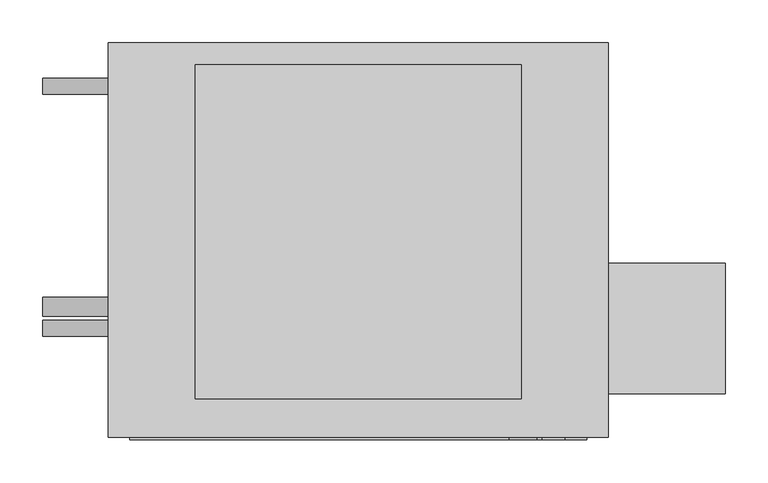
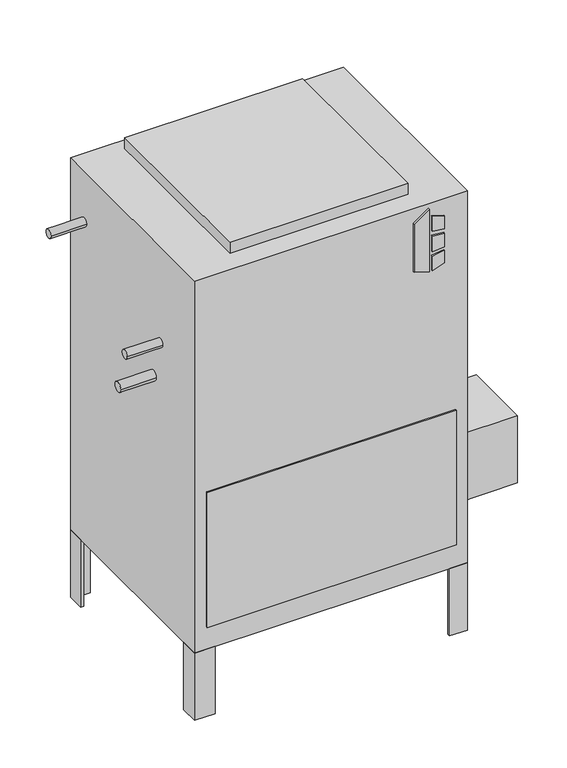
"""IFC4 building model written with IfcOpenShell, lengths in millimetres: proxy geometry, Concealed_High_Capacity_Vertical_Fan_Coil_Unit_-_VEY_-_IEC_-_2-Pipe_Cool-EHeat_LH_2022 : Size 06 - 277v/60Hz/1Ph - 6 Row 4.0kW."""

from ifc_helpers import new_model, si_unit, point, frame, frame_2d, origin, origin_with_axes, place, context, project, spatial, polyline, circle_curve, trimmed, segment, composite_curve, outline, extrude, source, transform, mapped, element, save


def mechanical_equipment_a16d7c03(model_context):
    return source(origin(), model_context, "Body", "SweptSolid", [
        extrude(outline(polyline([(698.9230703, 328.6868862), (688.975, 360.8602728), (831.1459244, 360.8602728), (808.1239183, 328.6868862), (698.9230703, 328.6868862)])), frame((0.0, -471.4875, 0.0), z_axis=(0.0, 1.0, 0.0), x_axis=(0.0, 0.0, 1.0)), (0.0, 0.0, 1.0), 3.175),
        extrude(outline(polyline([(777.9223557, 367.6186058), (774.7199632, 393.7), (803.9488042, 393.7), (812.0132193, 367.6186058), (777.9223557, 367.6186058)])), frame((0.0, -471.4875, 0.0), z_axis=(0.0, 1.0, 0.0), x_axis=(0.0, 0.0, 1.0)), (0.0, 0.0, 1.0), 3.175),
        extrude(outline(polyline([(726.0588288, 393.7), (722.3933279, 367.6186058), (688.975, 367.6186058), (697.6092372, 393.7), (726.0588288, 393.7)])), frame((0.0, -471.4875, 0.0), z_axis=(0.0, 1.0, 0.0), x_axis=(0.0, 0.0, 1.0)), (0.0, 0.0, 1.0), 3.175),
        extrude(outline(polyline([(765.3739903, 393.7), (767.6558166, 367.6186058), (731.7182681, 367.6186058), (734.4595331, 393.7), (765.3739903, 393.7)])), frame((0.0, -471.4875, 0.0), z_axis=(0.0, 1.0, 0.0), x_axis=(0.0, 0.0, 1.0)), (0.0, 0.0, 1.0), 3.175),
        extrude(outline(polyline([(444.5, -417.5125), (444.5, -265.1125), (581.025, -265.1125), (581.025, -417.5125), (444.5, -417.5125)])), frame((0.0, 0.0, 101.6), z_axis=(0.0, 0.0, 1.0), x_axis=(1.0, 0.0, 0.0)), (0.0, 0.0, 1.0), 152.4),
        extrude(outline(polyline([(444.5, -46.0375), (438.15, -46.0375), (438.15, -14.2875), (406.4, -14.2875), (406.4, -7.9375), (444.5, -7.9375), (444.5, -46.0375)])), frame((0.0, 0.0, -152.4), z_axis=(0.0, 0.0, 1.0), x_axis=(1.0, 0.0, 0.0)), (0.0, 0.0, 1.0), 152.4),
        extrude(outline(polyline([(-101.6, -7.9375), (-101.6, -14.2875), (-133.35, -14.2875), (-133.35, -46.0375), (-139.7, -46.0375), (-139.7, -7.9375), (-101.6, -7.9375)])), frame((0.0, 0.0, -152.4), z_axis=(0.0, 0.0, 1.0), x_axis=(1.0, 0.0, 0.0)), (0.0, 0.0, 1.0), 152.4),
        extrude(outline(polyline([(406.4, -468.3125), (406.4, -461.9625), (438.15, -461.9625), (438.15, -430.2125), (444.5, -430.2125), (444.5, -468.3125), (406.4, -468.3125)])), frame((0.0, 0.0, -152.4), z_axis=(0.0, 0.0, 1.0), x_axis=(1.0, 0.0, 0.0)), (0.0, 0.0, 1.0), 152.4),
        extrude(outline(polyline([(-139.7, -428.1199163), (-133.35, -428.1199163), (-133.35, -461.9625), (-96.2318533, -461.9625), (-96.2318533, -468.3125), (-139.7, -468.3125), (-139.7, -428.1199163)])), frame((0.0, 0.0, -152.4), z_axis=(0.0, 0.0, 1.0), x_axis=(1.0, 0.0, 0.0)), (0.0, 0.0, 1.0), 152.4),
        extrude(outline(polyline([(342.9, -33.3375), (342.9, -423.8625), (-38.1, -423.8625), (-38.1, -33.3375), (342.9, -33.3375)])), frame((0.0, 0.0, 841.375), z_axis=(0.0, 0.0, 1.0), x_axis=(1.0, 0.0, 0.0)), (0.0, 0.0, 1.0), 25.4),
        extrude(outline(polyline([(419.1, -471.4875), (-114.3, -471.4875), (-114.3, -468.3125), (419.1, -468.3125), (419.1, -471.4875)])), frame((0.0, 0.0, 50.8), z_axis=(0.0, 0.0, 1.0), x_axis=(1.0, 0.0, 0.0)), (0.0, 0.0, 1.0), 304.8),
        extrude(outline(composite_curve([segment(trimmed(circle_curve(frame_2d((-58.7375, 727.075)), 9.525), [point((-68.2625, 727.075))], [point((-49.2125, 727.075))], False, "CARTESIAN"), True, "CONTINUOUS"), segment(trimmed(circle_curve(frame_2d((-58.7375, 727.075)), 9.525), [point((-49.2125, 727.075))], [point((-68.2625, 727.075))], False, "CARTESIAN"), True, "CONTINUOUS")], self_intersect=False)), frame((-215.9, 0.0, 0.0), z_axis=(1.0, 0.0, 0.0), x_axis=(0.0, 1.0, 0.0)), (0.0, 0.0, 1.0), 76.2),
        extrude(outline(composite_curve([segment(trimmed(circle_curve(frame_2d((-341.3125, 625.475)), 9.525), [point((-350.8375, 625.475))], [point((-331.7875, 625.475))], False, "CARTESIAN"), True, "CONTINUOUS"), segment(trimmed(circle_curve(frame_2d((-341.3125, 625.475)), 9.525), [point((-331.7875, 625.475))], [point((-350.8375, 625.475))], False, "CARTESIAN"), True, "CONTINUOUS")], self_intersect=False)), frame((-215.9, 0.0, 0.0), z_axis=(1.0, 0.0, 0.0), x_axis=(0.0, 1.0, 0.0)), (0.0, 0.0, 1.0), 76.2),
        extrude(outline(composite_curve([segment(trimmed(circle_curve(frame_2d((-315.9125, 536.575)), 11.1125), [point((-327.025, 536.575))], [point((-304.8, 536.575))], False, "CARTESIAN"), True, "CONTINUOUS"), segment(trimmed(circle_curve(frame_2d((-315.9125, 536.575)), 11.1125), [point((-304.8, 536.575))], [point((-327.025, 536.575))], False, "CARTESIAN"), True, "CONTINUOUS")], self_intersect=False)), frame((-215.9, 0.0, 0.0), z_axis=(1.0, 0.0, 0.0), x_axis=(0.0, 1.0, 0.0)), (0.0, 0.0, 1.0), 76.2),
        extrude(outline(polyline([(444.5, -7.9375), (444.5, -468.3125), (-139.7, -468.3125), (-139.7, -7.9375), (444.5, -7.9375)])), origin_with_axes(), (0.0, 0.0, 1.0), 841.375),
    ])


if __name__ == "__main__":
    model = new_model("IFC4")
    model_context = context("Model", 3, world=origin())
    ifc_project = project(units=[si_unit("LENGTHUNIT", "METRE", prefix="MILLI")], contexts=[model_context])
    site = spatial("IfcSite", under=ifc_project)
    building = spatial("IfcBuilding", under=site)
    placement = place(None, origin())
    mechanical_equipment_shape = mechanical_equipment_a16d7c03(model_context)
    element("IfcBuildingElementProxy", 1, Name="Concealed_High_Capacity_Vertical_Fan_Coil_Unit_-_VEY_-_IEC_-_2-Pipe_Cool-EHeat_LH_2022 : Size 06 - 277v/60Hz/1Ph - 6 Row 4.0kW", ObjectType="Concealed_High_Capacity_Vertical_Fan_Coil_Unit_-_VEY_-_IEC_-_2-Pipe_Cool-EHeat_LH_2022 : Size 06 - 277v/60Hz/1Ph - 6 Row 4.0kW", at=placement, inside=building, context=model_context, shape_type="MappedRepresentation", body=[
        mapped(mechanical_equipment_shape, transform((0.0, 0.0, 0.0), x_axis=(1.0, 0.0, 0.0), y_axis=(0.0, 1.0, 0.0), z_axis=(0.0, 0.0, 1.0))),
    ])
    save(model, "model.ifc")
